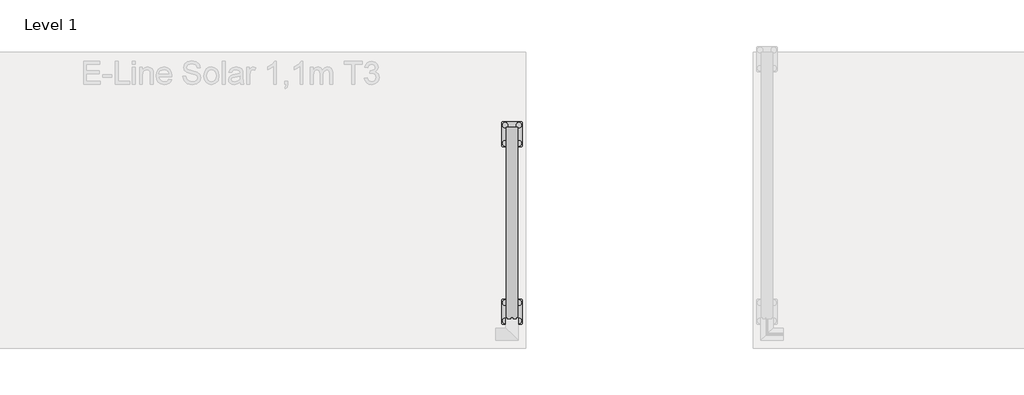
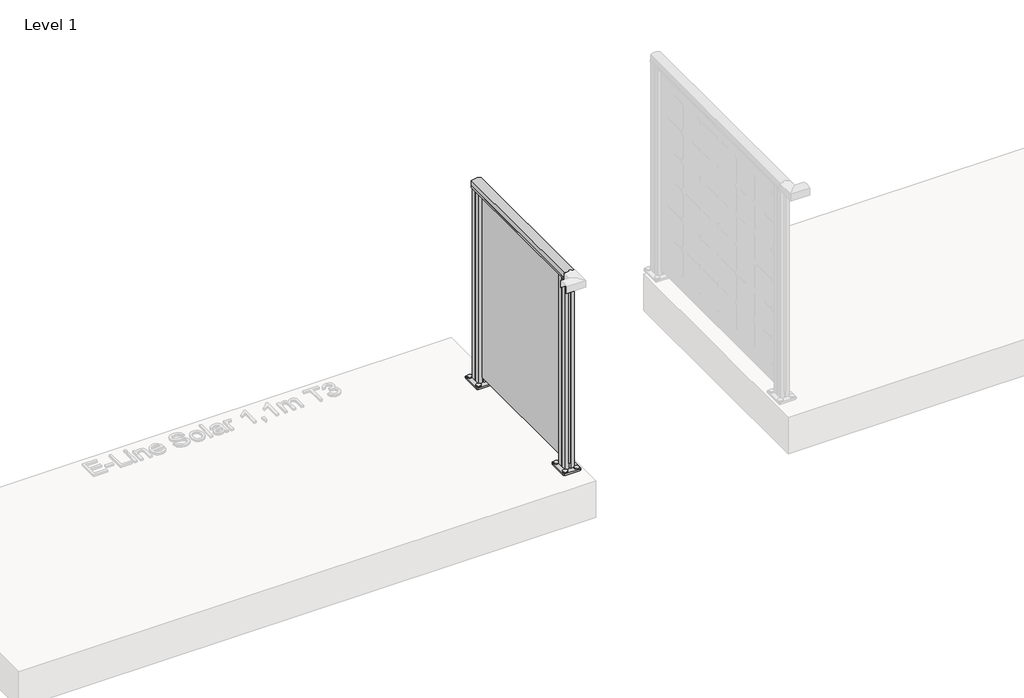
# One storey, part 25 of 66: 1 railing.
"""IFC4 building model written with IfcOpenShell, lengths in millimetres."""

from ifc_helpers import new_model, si_unit, point, frame, frame_2d, origin, origin_with_axes, place, context, project, spatial, polyline, circle_curve, trimmed, segment, composite_curve, outline, extrude, element, save

model = new_model("IFC4")

# Units and contexts
model_context = context("Model", 3, world=origin())
ifc_project = project(units=[si_unit("LENGTHUNIT", "METRE", prefix="MILLI")], contexts=[model_context])

# Site, building, storey
site = spatial("IfcSite", under=ifc_project)
building = spatial("IfcBuilding", under=site)
storey = spatial("IfcBuildingStorey", under=building, Name="Level 1", Elevation=0.0)

# Railing
placement = place(None, origin())
element("IfcRailing", 1, ObjectType="E-Line Solar 1,1m T3 4 columns of solar elements", at=placement, inside=storey, context=model_context, shape_type="SweptSolid", body=[
    extrude(outline(composite_curve([segment(trimmed(circle_curve(frame_2d((1042.6785502, 22235.8109342)), 57.3235687), [point((1094.1390059, 22261.0658945))], [point((1094.1342258, 22210.5462362))], False, "CARTESIAN"), True, "CONTINUOUS"), segment(polyline([(1094.1342258, 22210.5462362), (1067.0235023, 22210.5462362), (1066.4415706, 22211.128168), (1065.8194895, 22210.5060869), (1057.2498847, 22210.5060869), (1057.2498847, 22212.3110398), (1080.4998829, 22212.3110398), (1080.4998829, 22259.306086), (1057.2498847, 22259.306086), (1057.2498847, 22261.0658945), (1065.9694895, 22261.0658945), (1066.5842725, 22260.4511115), (1067.1990555, 22261.0658945), (1094.1390059, 22261.0658945)]), True, "CONTINUOUS")], self_intersect=False)), frame((0.0, -2851.1184021, 0.0), z_axis=(0.0, 1.0, 0.0), x_axis=(0.0, 0.0, 1.0)), (0.0, 0.0, 1.0), 840.0),
    extrude(outline(polyline([(22232.1463105, -2011.1184021), (22240.9063105, -2011.1184021), (22240.9063105, -2851.1184021), (22232.1463105, -2851.1184021), (22232.1463105, -2011.1184021)])), frame((0.0, 0.0, 40.0), z_axis=(0.0, 0.0, 1.0), x_axis=(1.0, 0.0, 0.0)), (0.0, 0.0, 1.0), 1040.0),
    extrude(outline(polyline([(0.0, 0.0), (-16.036927, 16.036927), (-16.036927, 139.963073), (0.0, 156.0), (123.9261459, 156.0), (139.963073, 139.963073), (139.963073, 16.036927), (123.9261459, 0.0), (0.0, 0.0)])), frame((22240.0263105, -2267.6184021, 1024.4156895), z_axis=(1.0, -5.7872079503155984e-12, 0.0), x_axis=(0.0, 0.0, -1.0)), (0.0, 0.0, 1.0), 1.0),
    extrude(outline(polyline([(0.0, 0.0), (-16.036927, 16.036927), (-16.036927, 139.963073), (0.0, 156.0), (123.9261459, 156.0), (139.963073, 139.963073), (139.963073, 16.036927), (123.9261459, 0.0), (0.0, 0.0)])), frame((22240.0263105, -2428.6184021, 1024.4156895), z_axis=(1.0, -5.7872079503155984e-12, 0.0), x_axis=(0.0, 0.0, -1.0)), (0.0, 0.0, 1.0), 1.0),
    extrude(outline(polyline([(0.0, 0.0), (-16.036927, 16.036927), (-16.036927, 139.963073), (0.0, 156.0), (123.9261459, 156.0), (139.963073, 139.963073), (139.963073, 16.036927), (123.9261459, 0.0), (0.0, 0.0)])), frame((22240.0263105, -2750.6184021, 1024.4156895), z_axis=(1.0, -5.7872079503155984e-12, 0.0), x_axis=(0.0, 0.0, -1.0)), (0.0, 0.0, 1.0), 1.0),
    extrude(outline(polyline([(0.0, 0.0), (-16.036927, 16.036927), (-16.036927, 139.963073), (0.0, 156.0), (123.9261459, 156.0), (139.963073, 139.963073), (139.963073, 16.036927), (123.9261459, 0.0), (0.0, 0.0)])), frame((22240.0263105, -2589.6184021, 1024.4156895), z_axis=(1.0, -5.7872079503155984e-12, 0.0), x_axis=(0.0, 0.0, -1.0)), (0.0, 0.0, 1.0), 1.0),
    extrude(outline(polyline([(0.0, 0.0), (-16.036927, 16.036927), (-16.036927, 139.963073), (0.0, 156.0), (123.9261459, 156.0), (139.963073, 139.963073), (139.963073, 16.036927), (123.9261459, 0.0), (0.0, 0.0)])), frame((22240.0263105, -2267.6184021, 863.4156895), z_axis=(1.0, -5.7872079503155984e-12, 0.0), x_axis=(0.0, 0.0, -1.0)), (0.0, 0.0, 1.0), 1.0),
    extrude(outline(polyline([(0.0, 0.0), (-16.036927, 16.036927), (-16.036927, 139.963073), (0.0, 156.0), (123.9261459, 156.0), (139.963073, 139.963073), (139.963073, 16.036927), (123.9261459, 0.0), (0.0, 0.0)])), frame((22240.0263105, -2267.6184021, 702.4156895), z_axis=(1.0, -5.7872079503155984e-12, 0.0), x_axis=(0.0, 0.0, -1.0)), (0.0, 0.0, 1.0), 1.0),
    extrude(outline(polyline([(0.0, 0.0), (-16.036927, 16.036927), (-16.036927, 139.963073), (0.0, 156.0), (123.9261459, 156.0), (139.963073, 139.963073), (139.963073, 16.036927), (123.9261459, 0.0), (0.0, 0.0)])), frame((22240.0263105, -2267.6184021, 541.4156895), z_axis=(1.0, -5.7872079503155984e-12, 0.0), x_axis=(0.0, 0.0, -1.0)), (0.0, 0.0, 1.0), 1.0),
    extrude(outline(polyline([(0.0, 0.0), (-16.036927, 16.036927), (-16.036927, 139.963073), (0.0, 156.0), (123.9261459, 156.0), (139.963073, 139.963073), (139.963073, 16.036927), (123.9261459, 0.0), (0.0, 0.0)])), frame((22240.0263105, -2267.6184021, 380.4156895), z_axis=(1.0, -5.7872079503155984e-12, 0.0), x_axis=(0.0, 0.0, -1.0)), (0.0, 0.0, 1.0), 1.0),
    extrude(outline(polyline([(0.0, 0.0), (-16.036927, 16.036927), (-16.036927, 139.963073), (0.0, 156.0), (123.9261459, 156.0), (139.963073, 139.963073), (139.963073, 16.036927), (123.9261459, 0.0), (0.0, 0.0)])), frame((22240.0263105, -2267.6184021, 219.4156895), z_axis=(1.0, -5.7872079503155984e-12, 0.0), x_axis=(0.0, 0.0, -1.0)), (0.0, 0.0, 1.0), 1.0),
    extrude(outline(polyline([(0.0, 0.0), (-16.036927, 16.036927), (-16.036927, 139.963073), (0.0, 156.0), (123.9261459, 156.0), (139.963073, 139.963073), (139.963073, 16.036927), (123.9261459, 0.0), (0.0, 0.0)])), frame((22240.0263105, -2428.6184021, 863.4156895), z_axis=(1.0, -5.7872079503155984e-12, 0.0), x_axis=(0.0, 0.0, -1.0)), (0.0, 0.0, 1.0), 1.0),
    extrude(outline(polyline([(0.0, 0.0), (-16.036927, 16.036927), (-16.036927, 139.963073), (0.0, 156.0), (123.9261459, 156.0), (139.963073, 139.963073), (139.963073, 16.036927), (123.9261459, 0.0), (0.0, 0.0)])), frame((22240.0263105, -2428.6184021, 702.4156895), z_axis=(1.0, -5.7872079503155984e-12, 0.0), x_axis=(0.0, 0.0, -1.0)), (0.0, 0.0, 1.0), 1.0),
    extrude(outline(polyline([(0.0, 0.0), (-16.036927, 16.036927), (-16.036927, 139.963073), (0.0, 156.0), (123.9261459, 156.0), (139.963073, 139.963073), (139.963073, 16.036927), (123.9261459, 0.0), (0.0, 0.0)])), frame((22240.0263105, -2428.6184021, 541.4156895), z_axis=(1.0, -5.7872079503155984e-12, 0.0), x_axis=(0.0, 0.0, -1.0)), (0.0, 0.0, 1.0), 1.0),
    extrude(outline(polyline([(0.0, 0.0), (-16.036927, 16.036927), (-16.036927, 139.963073), (0.0, 156.0), (123.9261459, 156.0), (139.963073, 139.963073), (139.963073, 16.036927), (123.9261459, 0.0), (0.0, 0.0)])), frame((22240.0263105, -2428.6184021, 380.4156895), z_axis=(1.0, -5.7872079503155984e-12, 0.0), x_axis=(0.0, 0.0, -1.0)), (0.0, 0.0, 1.0), 1.0),
    extrude(outline(polyline([(0.0, 0.0), (-16.036927, 16.036927), (-16.036927, 139.963073), (0.0, 156.0), (123.9261459, 156.0), (139.963073, 139.963073), (139.963073, 16.036927), (123.9261459, 0.0), (0.0, 0.0)])), frame((22240.0263105, -2428.6184021, 219.4156895), z_axis=(1.0, -5.7872079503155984e-12, 0.0), x_axis=(0.0, 0.0, -1.0)), (0.0, 0.0, 1.0), 1.0),
    extrude(outline(polyline([(0.0, 0.0), (-16.036927, 16.036927), (-16.036927, 139.963073), (0.0, 156.0), (123.9261459, 156.0), (139.963073, 139.963073), (139.963073, 16.036927), (123.9261459, 0.0), (0.0, 0.0)])), frame((22240.0263105, -2750.6184021, 863.4156895), z_axis=(1.0, -5.7872079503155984e-12, 0.0), x_axis=(0.0, 0.0, -1.0)), (0.0, 0.0, 1.0), 1.0),
    extrude(outline(polyline([(0.0, 0.0), (-16.036927, 16.036927), (-16.036927, 139.963073), (0.0, 156.0), (123.9261459, 156.0), (139.963073, 139.963073), (139.963073, 16.036927), (123.9261459, 0.0), (0.0, 0.0)])), frame((22240.0263105, -2750.6184021, 702.4156895), z_axis=(1.0, -5.7872079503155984e-12, 0.0), x_axis=(0.0, 0.0, -1.0)), (0.0, 0.0, 1.0), 1.0),
    extrude(outline(polyline([(0.0, 0.0), (-16.036927, 16.036927), (-16.036927, 139.963073), (0.0, 156.0), (123.9261459, 156.0), (139.963073, 139.963073), (139.963073, 16.036927), (123.9261459, 0.0), (0.0, 0.0)])), frame((22240.0263105, -2750.6184021, 541.4156895), z_axis=(1.0, -5.7872079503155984e-12, 0.0), x_axis=(0.0, 0.0, -1.0)), (0.0, 0.0, 1.0), 1.0),
    extrude(outline(polyline([(0.0, 0.0), (-16.036927, 16.036927), (-16.036927, 139.963073), (0.0, 156.0), (123.9261459, 156.0), (139.963073, 139.963073), (139.963073, 16.036927), (123.9261459, 0.0), (0.0, 0.0)])), frame((22240.0263105, -2750.6184021, 380.4156895), z_axis=(1.0, -5.7872079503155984e-12, 0.0), x_axis=(0.0, 0.0, -1.0)), (0.0, 0.0, 1.0), 1.0),
    extrude(outline(polyline([(0.0, 0.0), (-16.036927, 16.036927), (-16.036927, 139.963073), (0.0, 156.0), (123.9261459, 156.0), (139.963073, 139.963073), (139.963073, 16.036927), (123.9261459, 0.0), (0.0, 0.0)])), frame((22240.0263105, -2750.6184021, 219.4156895), z_axis=(1.0, -5.7872079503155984e-12, 0.0), x_axis=(0.0, 0.0, -1.0)), (0.0, 0.0, 1.0), 1.0),
    extrude(outline(polyline([(0.0, 0.0), (-16.036927, 16.036927), (-16.036927, 139.963073), (0.0, 156.0), (123.9261459, 156.0), (139.963073, 139.963073), (139.963073, 16.036927), (123.9261459, 0.0), (0.0, 0.0)])), frame((22240.0263105, -2589.6184021, 863.4156895), z_axis=(1.0, -5.7872079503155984e-12, 0.0), x_axis=(0.0, 0.0, -1.0)), (0.0, 0.0, 1.0), 1.0),
    extrude(outline(polyline([(0.0, 0.0), (-16.036927, 16.036927), (-16.036927, 139.963073), (0.0, 156.0), (123.9261459, 156.0), (139.963073, 139.963073), (139.963073, 16.036927), (123.9261459, 0.0), (0.0, 0.0)])), frame((22240.0263105, -2589.6184021, 702.4156895), z_axis=(1.0, -5.7872079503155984e-12, 0.0), x_axis=(0.0, 0.0, -1.0)), (0.0, 0.0, 1.0), 1.0),
    extrude(outline(polyline([(0.0, 0.0), (-16.036927, 16.036927), (-16.036927, 139.963073), (0.0, 156.0), (123.9261459, 156.0), (139.963073, 139.963073), (139.963073, 16.036927), (123.9261459, 0.0), (0.0, 0.0)])), frame((22240.0263105, -2589.6184021, 541.4156895), z_axis=(1.0, -5.7872079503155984e-12, 0.0), x_axis=(0.0, 0.0, -1.0)), (0.0, 0.0, 1.0), 1.0),
    extrude(outline(polyline([(0.0, 0.0), (-16.036927, 16.036927), (-16.036927, 139.963073), (0.0, 156.0), (123.9261459, 156.0), (139.963073, 139.963073), (139.963073, 16.036927), (123.9261459, 0.0), (0.0, 0.0)])), frame((22240.0263105, -2589.6184021, 380.4156895), z_axis=(1.0, -5.7872079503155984e-12, 0.0), x_axis=(0.0, 0.0, -1.0)), (0.0, 0.0, 1.0), 1.0),
    extrude(outline(polyline([(0.0, 0.0), (-16.036927, 16.036927), (-16.036927, 139.963073), (0.0, 156.0), (123.9261459, 156.0), (139.963073, 139.963073), (139.963073, 16.036927), (123.9261459, 0.0), (0.0, 0.0)])), frame((22240.0263105, -2589.6184021, 219.4156895), z_axis=(1.0, -5.7872079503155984e-12, 0.0), x_axis=(0.0, 0.0, -1.0)), (0.0, 0.0, 1.0), 1.0),
    extrude(outline(composite_curve([segment(trimmed(circle_curve(frame_2d((22266.5263105, -2781.1184021)), 11.9621755), [point((22278.488486, -2781.1184021))], [point((22254.5641351, -2781.1184021))], False, "CARTESIAN"), True, "CONTINUOUS"), segment(trimmed(circle_curve(frame_2d((22266.5263105, -2781.1184021)), 11.9621755), [point((22254.5641351, -2781.1184021))], [point((22278.488486, -2781.1184021))], False, "CARTESIAN"), True, "CONTINUOUS")], self_intersect=False)), frame((0.0, 0.0, 10.0), z_axis=(0.0, 0.0, 1.0), x_axis=(1.0, 0.0, 0.0)), (0.0, 0.0, 1.0), 5.0),
    extrude(outline(composite_curve([segment(trimmed(circle_curve(frame_2d((22206.5263105, -2781.1184021)), 11.9621755), [point((22218.488486, -2781.1184021))], [point((22194.5641351, -2781.1184021))], False, "CARTESIAN"), True, "CONTINUOUS"), segment(trimmed(circle_curve(frame_2d((22206.5263105, -2781.1184021)), 11.9621755), [point((22194.5641351, -2781.1184021))], [point((22218.488486, -2781.1184021))], False, "CARTESIAN"), True, "CONTINUOUS")], self_intersect=False)), frame((0.0, 0.0, 10.0), z_axis=(0.0, 0.0, 1.0), x_axis=(1.0, 0.0, 0.0)), (0.0, 0.0, 1.0), 5.0),
    extrude(outline(composite_curve([segment(trimmed(circle_curve(frame_2d((22266.5263105, -2861.1184021)), 11.9621755), [point((22278.488486, -2861.1184021))], [point((22254.5641351, -2861.1184021))], False, "CARTESIAN"), True, "CONTINUOUS"), segment(trimmed(circle_curve(frame_2d((22266.5263105, -2861.1184021)), 11.9621755), [point((22254.5641351, -2861.1184021))], [point((22278.488486, -2861.1184021))], False, "CARTESIAN"), True, "CONTINUOUS")], self_intersect=False)), frame((0.0, 0.0, 10.0), z_axis=(0.0, 0.0, 1.0), x_axis=(1.0, 0.0, 0.0)), (0.0, 0.0, 1.0), 5.0),
    extrude(outline(composite_curve([segment(trimmed(circle_curve(frame_2d((22206.5263105, -2861.1184021)), 11.9621755), [point((22218.488486, -2861.1184021))], [point((22194.5641351, -2861.1184021))], False, "CARTESIAN"), True, "CONTINUOUS"), segment(trimmed(circle_curve(frame_2d((22206.5263105, -2861.1184021)), 11.9621755), [point((22194.5641351, -2861.1184021))], [point((22218.488486, -2861.1184021))], False, "CARTESIAN"), True, "CONTINUOUS")], self_intersect=False)), frame((0.0, 0.0, 10.0), z_axis=(0.0, 0.0, 1.0), x_axis=(1.0, 0.0, 0.0)), (0.0, 0.0, 1.0), 5.0),
    extrude(outline(composite_curve([segment(polyline([(22196.5263105, -2766.1184021), (22276.5263105, -2766.1184021)]), True, "CONTINUOUS"), segment(trimmed(circle_curve(frame_2d((22276.5263105, -2771.1184021)), 5.0), [point((22276.5263105, -2766.1184021))], [point((22281.5263105, -2771.1184021))], False, "CARTESIAN"), True, "CONTINUOUS"), segment(polyline([(22281.5263105, -2771.1184021), (22281.5263105, -2871.1184021)]), True, "CONTINUOUS"), segment(trimmed(circle_curve(frame_2d((22276.5263105, -2871.1184021)), 5.0), [point((22281.5263105, -2871.1184021))], [point((22276.5263105, -2876.1184021))], False, "CARTESIAN"), True, "CONTINUOUS"), segment(polyline([(22276.5263105, -2876.1184021), (22196.5263105, -2876.1184021)]), True, "CONTINUOUS"), segment(trimmed(circle_curve(frame_2d((22196.5263105, -2871.1184021)), 5.0), [point((22196.5263105, -2876.1184021))], [point((22191.5263105, -2871.1184021))], False, "CARTESIAN"), True, "CONTINUOUS"), segment(polyline([(22191.5263105, -2871.1184021), (22191.5263105, -2771.1184021)]), True, "CONTINUOUS"), segment(trimmed(circle_curve(frame_2d((22196.5263105, -2771.1184021)), 5.0), [point((22191.5263105, -2771.1184021))], [point((22196.5263105, -2766.1184021))], False, "CARTESIAN"), True, "CONTINUOUS")], self_intersect=False), holes=[composite_curve([segment(trimmed(circle_curve(frame_2d((22206.5263105, -2781.1184021)), 6.25), [point((22212.7763105, -2781.1184021))], [point((22200.2763105, -2781.1184021))], True, "CARTESIAN"), True, "CONTINUOUS"), segment(trimmed(circle_curve(frame_2d((22206.5263105, -2781.1184021)), 6.25), [point((22200.2763105, -2781.1184021))], [point((22212.7763105, -2781.1184021))], True, "CARTESIAN"), True, "CONTINUOUS")], self_intersect=False), composite_curve([segment(trimmed(circle_curve(frame_2d((22266.5263105, -2781.1184021)), 6.25), [point((22272.7763105, -2781.1184021))], [point((22260.2763105, -2781.1184021))], True, "CARTESIAN"), True, "CONTINUOUS"), segment(trimmed(circle_curve(frame_2d((22266.5263105, -2781.1184021)), 6.25), [point((22260.2763105, -2781.1184021))], [point((22272.7763105, -2781.1184021))], True, "CARTESIAN"), True, "CONTINUOUS")], self_intersect=False), composite_curve([segment(trimmed(circle_curve(frame_2d((22266.5263105, -2861.1184021)), 6.25), [point((22272.7763105, -2861.1184021))], [point((22260.2763105, -2861.1184021))], True, "CARTESIAN"), True, "CONTINUOUS"), segment(trimmed(circle_curve(frame_2d((22266.5263105, -2861.1184021)), 6.25), [point((22260.2763105, -2861.1184021))], [point((22272.7763105, -2861.1184021))], True, "CARTESIAN"), True, "CONTINUOUS")], self_intersect=False), composite_curve([segment(trimmed(circle_curve(frame_2d((22206.5263105, -2861.1184021)), 6.25), [point((22212.7763105, -2861.1184021))], [point((22200.2763105, -2861.1184021))], True, "CARTESIAN"), True, "CONTINUOUS"), segment(trimmed(circle_curve(frame_2d((22206.5263105, -2861.1184021)), 6.25), [point((22200.2763105, -2861.1184021))], [point((22212.7763105, -2861.1184021))], True, "CARTESIAN"), True, "CONTINUOUS")], self_intersect=False)]), origin_with_axes(), (0.0, 0.0, 1.0), 10.0),
    extrude(outline(polyline([(22240.8721725, -2851.116809), (22240.8747497, -2833.6168092), (22232.1147498, -2833.6155191), (22232.1121726, -2851.1155189), (22214.0573652, -2851.11286), (22214.0616532, -2821.995873), (22214.9400753, -2821.1177096), (22214.021743, -2820.0798417), (22214.0260089, -2791.1128548), (22232.1210087, -2791.1155196), (22232.1184315, -2808.6155194), (22240.8784314, -2808.6168095), (22240.8810086, -2791.1168097), (22258.9859597, -2791.119476), (22258.9816865, -2820.1359515), (22257.9932969, -2821.12405), (22259.0214382, -2822.1524942), (22259.0171723, -2851.1194812), (22240.8721725, -2851.116809)]), holes=[polyline([(22216.0202949, -2812.3191871), (22216.0202949, -2829.9131488), (22257.0228863, -2829.9131488), (22257.0228863, -2812.3191871), (22216.0202949, -2812.3191871)]), polyline([(22242.878181, -2793.1191873), (22242.878181, -2810.317104), (22257.0257139, -2810.317104), (22257.0257139, -2793.1191873), (22242.878181, -2793.1191873)]), polyline([(22216.0202949, -2793.115225), (22216.0202949, -2810.3131487), (22230.1207142, -2810.3131487), (22230.1207142, -2793.115225), (22216.0202949, -2793.115225)]), polyline([(22242.872467, -2831.9191868), (22242.872467, -2849.1171035), (22257.0199999, -2849.1171035), (22257.0199999, -2831.9191868), (22242.872467, -2831.9191868)]), polyline([(22215.9674673, -2831.9152246), (22215.9674673, -2849.1131413), (22230.1150002, -2849.1131413), (22230.1150002, -2831.9152246), (22215.9674673, -2831.9152246)])]), frame((0.0, 0.0, 10.0), z_axis=(0.0, 0.0, 1.0), x_axis=(1.0, 0.0, 0.0)), (0.0, 0.0, 1.0), 1071.0),
    extrude(outline(composite_curve([segment(trimmed(circle_curve(frame_2d((22266.5263105, -2001.1184021)), 11.9621755), [point((22278.488486, -2001.1184021))], [point((22254.5641351, -2001.1184021))], False, "CARTESIAN"), True, "CONTINUOUS"), segment(trimmed(circle_curve(frame_2d((22266.5263105, -2001.1184021)), 11.9621755), [point((22254.5641351, -2001.1184021))], [point((22278.488486, -2001.1184021))], False, "CARTESIAN"), True, "CONTINUOUS")], self_intersect=False)), frame((0.0, 0.0, 10.0), z_axis=(0.0, 0.0, 1.0), x_axis=(1.0, 0.0, 0.0)), (0.0, 0.0, 1.0), 5.0),
    extrude(outline(composite_curve([segment(trimmed(circle_curve(frame_2d((22206.5263105, -2001.1184021)), 11.9621755), [point((22218.488486, -2001.1184021))], [point((22194.5641351, -2001.1184021))], False, "CARTESIAN"), True, "CONTINUOUS"), segment(trimmed(circle_curve(frame_2d((22206.5263105, -2001.1184021)), 11.9621755), [point((22194.5641351, -2001.1184021))], [point((22218.488486, -2001.1184021))], False, "CARTESIAN"), True, "CONTINUOUS")], self_intersect=False)), frame((0.0, 0.0, 10.0), z_axis=(0.0, 0.0, 1.0), x_axis=(1.0, 0.0, 0.0)), (0.0, 0.0, 1.0), 5.0),
    extrude(outline(composite_curve([segment(trimmed(circle_curve(frame_2d((22266.5263105, -2081.1184021)), 11.9621755), [point((22278.488486, -2081.1184021))], [point((22254.5641351, -2081.1184021))], False, "CARTESIAN"), True, "CONTINUOUS"), segment(trimmed(circle_curve(frame_2d((22266.5263105, -2081.1184021)), 11.9621755), [point((22254.5641351, -2081.1184021))], [point((22278.488486, -2081.1184021))], False, "CARTESIAN"), True, "CONTINUOUS")], self_intersect=False)), frame((0.0, 0.0, 10.0), z_axis=(0.0, 0.0, 1.0), x_axis=(1.0, 0.0, 0.0)), (0.0, 0.0, 1.0), 5.0),
    extrude(outline(composite_curve([segment(trimmed(circle_curve(frame_2d((22206.5263105, -2081.1184021)), 11.9621755), [point((22218.488486, -2081.1184021))], [point((22194.5641351, -2081.1184021))], False, "CARTESIAN"), True, "CONTINUOUS"), segment(trimmed(circle_curve(frame_2d((22206.5263105, -2081.1184021)), 11.9621755), [point((22194.5641351, -2081.1184021))], [point((22218.488486, -2081.1184021))], False, "CARTESIAN"), True, "CONTINUOUS")], self_intersect=False)), frame((0.0, 0.0, 10.0), z_axis=(0.0, 0.0, 1.0), x_axis=(1.0, 0.0, 0.0)), (0.0, 0.0, 1.0), 5.0),
    extrude(outline(composite_curve([segment(polyline([(22196.5263105, -1986.1184021), (22276.5263105, -1986.1184021)]), True, "CONTINUOUS"), segment(trimmed(circle_curve(frame_2d((22276.5263105, -1991.1184021)), 5.0), [point((22276.5263105, -1986.1184021))], [point((22281.5263105, -1991.1184021))], False, "CARTESIAN"), True, "CONTINUOUS"), segment(polyline([(22281.5263105, -1991.1184021), (22281.5263105, -2091.1184021)]), True, "CONTINUOUS"), segment(trimmed(circle_curve(frame_2d((22276.5263105, -2091.1184021)), 5.0), [point((22281.5263105, -2091.1184021))], [point((22276.5263105, -2096.1184021))], False, "CARTESIAN"), True, "CONTINUOUS"), segment(polyline([(22276.5263105, -2096.1184021), (22196.5263105, -2096.1184021)]), True, "CONTINUOUS"), segment(trimmed(circle_curve(frame_2d((22196.5263105, -2091.1184021)), 5.0), [point((22196.5263105, -2096.1184021))], [point((22191.5263105, -2091.1184021))], False, "CARTESIAN"), True, "CONTINUOUS"), segment(polyline([(22191.5263105, -2091.1184021), (22191.5263105, -1991.1184021)]), True, "CONTINUOUS"), segment(trimmed(circle_curve(frame_2d((22196.5263105, -1991.1184021)), 5.0), [point((22191.5263105, -1991.1184021))], [point((22196.5263105, -1986.1184021))], False, "CARTESIAN"), True, "CONTINUOUS")], self_intersect=False), holes=[composite_curve([segment(trimmed(circle_curve(frame_2d((22206.5263105, -2001.1184021)), 6.25), [point((22212.7763105, -2001.1184021))], [point((22200.2763105, -2001.1184021))], True, "CARTESIAN"), True, "CONTINUOUS"), segment(trimmed(circle_curve(frame_2d((22206.5263105, -2001.1184021)), 6.25), [point((22200.2763105, -2001.1184021))], [point((22212.7763105, -2001.1184021))], True, "CARTESIAN"), True, "CONTINUOUS")], self_intersect=False), composite_curve([segment(trimmed(circle_curve(frame_2d((22266.5263105, -2001.1184021)), 6.25), [point((22272.7763105, -2001.1184021))], [point((22260.2763105, -2001.1184021))], True, "CARTESIAN"), True, "CONTINUOUS"), segment(trimmed(circle_curve(frame_2d((22266.5263105, -2001.1184021)), 6.25), [point((22260.2763105, -2001.1184021))], [point((22272.7763105, -2001.1184021))], True, "CARTESIAN"), True, "CONTINUOUS")], self_intersect=False), composite_curve([segment(trimmed(circle_curve(frame_2d((22266.5263105, -2081.1184021)), 6.25), [point((22272.7763105, -2081.1184021))], [point((22260.2763105, -2081.1184021))], True, "CARTESIAN"), True, "CONTINUOUS"), segment(trimmed(circle_curve(frame_2d((22266.5263105, -2081.1184021)), 6.25), [point((22260.2763105, -2081.1184021))], [point((22272.7763105, -2081.1184021))], True, "CARTESIAN"), True, "CONTINUOUS")], self_intersect=False), composite_curve([segment(trimmed(circle_curve(frame_2d((22206.5263105, -2081.1184021)), 6.25), [point((22212.7763105, -2081.1184021))], [point((22200.2763105, -2081.1184021))], True, "CARTESIAN"), True, "CONTINUOUS"), segment(trimmed(circle_curve(frame_2d((22206.5263105, -2081.1184021)), 6.25), [point((22200.2763105, -2081.1184021))], [point((22212.7763105, -2081.1184021))], True, "CARTESIAN"), True, "CONTINUOUS")], self_intersect=False)]), origin_with_axes(), (0.0, 0.0, 1.0), 10.0),
    extrude(outline(polyline([(22240.8721725, -2071.116809), (22240.8747497, -2053.6168092), (22232.1147498, -2053.6155191), (22232.1121726, -2071.1155189), (22214.0573652, -2071.11286), (22214.0616532, -2041.995873), (22214.9400753, -2041.1177096), (22214.021743, -2040.0798417), (22214.0260089, -2011.1128548), (22232.1210087, -2011.1155196), (22232.1184315, -2028.6155194), (22240.8784314, -2028.6168095), (22240.8810086, -2011.1168097), (22258.9859597, -2011.119476), (22258.9816865, -2040.1359515), (22257.9932969, -2041.12405), (22259.0214382, -2042.1524942), (22259.0171723, -2071.1194812), (22240.8721725, -2071.116809)]), holes=[polyline([(22216.0202949, -2032.3191871), (22216.0202949, -2049.9131488), (22257.0228863, -2049.9131488), (22257.0228863, -2032.3191871), (22216.0202949, -2032.3191871)]), polyline([(22242.878181, -2013.1191873), (22242.878181, -2030.317104), (22257.0257139, -2030.317104), (22257.0257139, -2013.1191873), (22242.878181, -2013.1191873)]), polyline([(22216.0202949, -2013.115225), (22216.0202949, -2030.3131487), (22230.1207142, -2030.3131487), (22230.1207142, -2013.115225), (22216.0202949, -2013.115225)]), polyline([(22242.872467, -2051.9191868), (22242.872467, -2069.1171035), (22257.0199999, -2069.1171035), (22257.0199999, -2051.9191868), (22242.872467, -2051.9191868)]), polyline([(22215.9674673, -2051.9152246), (22215.9674673, -2069.1131413), (22230.1150002, -2069.1131413), (22230.1150002, -2051.9152246), (22215.9674673, -2051.9152246)])]), frame((0.0, 0.0, 10.0), z_axis=(0.0, 0.0, 1.0), x_axis=(1.0, 0.0, 0.0)), (0.0, 0.0, 1.0), 1071.0),
])

save(model, "model.ifc")
